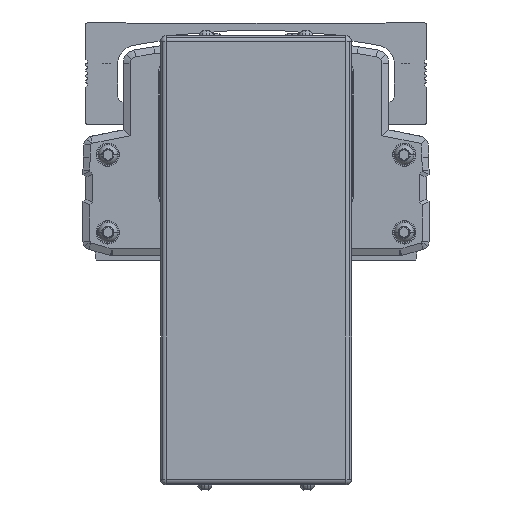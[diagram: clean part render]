
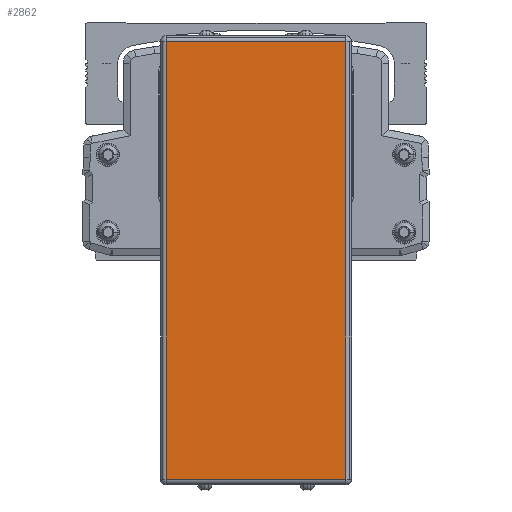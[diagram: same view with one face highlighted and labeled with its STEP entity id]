
A CAD part, front view. The second image highlights one B-rep face of the part: STEP entity #2862.
In plain terms, the highlighted planar face has unit normal (0, -1, 0).
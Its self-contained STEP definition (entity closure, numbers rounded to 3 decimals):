
#2862=ADVANCED_FACE('',(#7628),#7629,.T.);
#7628=FACE_OUTER_BOUND('',#14747,.T.);
#7629=PLANE('',#14748);
#14747=EDGE_LOOP('',(#24679,#24680,#24681,#24682));
#14748=AXIS2_PLACEMENT_3D('',#24683,#24684,#24685);
#24679=ORIENTED_EDGE('',*,*,#44266,.F.);
#24680=ORIENTED_EDGE('',*,*,#44267,.F.);
#24681=ORIENTED_EDGE('',*,*,#44268,.F.);
#24682=ORIENTED_EDGE('',*,*,#44269,.F.);
#24683=CARTESIAN_POINT('',(-299.996,-513.778,-49.1));
#24684=DIRECTION('',(0.,-1.0,0.));
#24685=DIRECTION('',(1.0,0.,0.));
#44266=EDGE_CURVE('',#53536,#53537,#53538,.T.);
#44267=EDGE_CURVE('',#53539,#53536,#53540,.T.);
#44268=EDGE_CURVE('',#53541,#53539,#53542,.T.);
#44269=EDGE_CURVE('',#53537,#53541,#53543,.T.);
#53536=VERTEX_POINT('',#66612);
#53537=VERTEX_POINT('',#66613);
#53538=LINE('',#66614,#66615);
#53539=VERTEX_POINT('',#66616);
#53540=LINE('',#66617,#66618);
#53541=VERTEX_POINT('',#66619);
#53542=LINE('',#66620,#66621);
#53543=LINE('',#66622,#66623);
#66612=CARTESIAN_POINT('',(-267.496,-513.778,30.));
#66613=CARTESIAN_POINT('',(-267.496,-513.778,-128.2));
#66614=CARTESIAN_POINT('',(-267.496,-513.778,-49.1));
#66615=VECTOR('',#81214,10.0);
#66616=CARTESIAN_POINT('',(-332.496,-513.778,30.));
#66617=CARTESIAN_POINT('',(-299.996,-513.778,30.));
#66618=VECTOR('',#81215,10.0);
#66619=CARTESIAN_POINT('',(-332.496,-513.778,-128.2));
#66620=CARTESIAN_POINT('',(-332.496,-513.778,-49.1));
#66621=VECTOR('',#81216,10.0);
#66622=CARTESIAN_POINT('',(-299.996,-513.778,-128.2));
#66623=VECTOR('',#81217,10.0);
#81214=DIRECTION('',(0.0,0.,-1.0));
#81215=DIRECTION('',(1.0,0.,0.));
#81216=DIRECTION('',(0.0,0.,1.0));
#81217=DIRECTION('',(-1.0,0.,0.));
